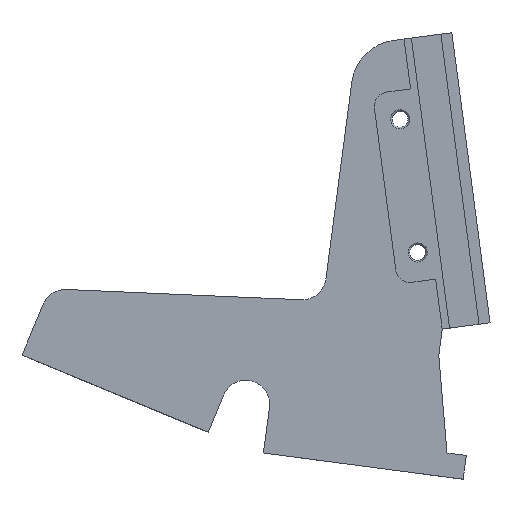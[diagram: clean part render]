
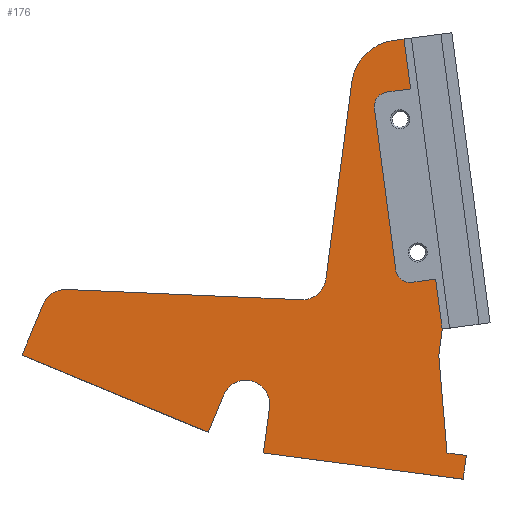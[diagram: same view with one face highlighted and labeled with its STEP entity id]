
A CAD part, left-side view. The second image highlights one B-rep face of the part: STEP entity #176.
In plain terms, the highlighted planar face has unit normal (-1, 0, 0).
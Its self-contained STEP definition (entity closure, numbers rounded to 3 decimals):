
#142=FACE_OUTER_BOUND('',#496,.T.);
#176=ADVANCED_FACE('',(#142),#235,.F.);
#235=PLANE('',#1125);
#264=LINE('',#1542,#349);
#284=LINE('',#1588,#369);
#286=LINE('',#1592,#371);
#287=LINE('',#1596,#372);
#288=LINE('',#1600,#373);
#289=LINE('',#1604,#374);
#290=LINE('',#1605,#375);
#291=LINE('',#1609,#376);
#292=LINE('',#1611,#377);
#293=LINE('',#1613,#378);
#294=LINE('',#1615,#379);
#295=LINE('',#1617,#380);
#296=LINE('',#1619,#381);
#297=LINE('',#1621,#382);
#298=LINE('',#1623,#383);
#299=LINE('',#1627,#384);
#300=LINE('',#1631,#385);
#349=VECTOR('',#1243,1.);
#369=VECTOR('',#1271,1.);
#371=VECTOR('',#1275,1.);
#372=VECTOR('',#1278,1.);
#373=VECTOR('',#1281,1.);
#374=VECTOR('',#1284,1.);
#375=VECTOR('',#1285,1.);
#376=VECTOR('',#1288,1.);
#377=VECTOR('',#1289,1.);
#378=VECTOR('',#1290,1.);
#379=VECTOR('',#1291,1.);
#380=VECTOR('',#1292,1.);
#381=VECTOR('',#1293,1.);
#382=VECTOR('',#1294,1.);
#383=VECTOR('',#1295,1.);
#384=VECTOR('',#1298,1.);
#385=VECTOR('',#1301,1.);
#496=EDGE_LOOP('',(#604,#605,#606,#607,#608,#609,#610,#611,#612,#613,#614,
#615,#616,#617,#618,#619,#620,#621,#622,#623,#624,#625,#626));
#604=ORIENTED_EDGE('',*,*,#950,.F.);
#605=ORIENTED_EDGE('',*,*,#948,.T.);
#606=ORIENTED_EDGE('',*,*,#951,.T.);
#607=ORIENTED_EDGE('',*,*,#952,.T.);
#608=ORIENTED_EDGE('',*,*,#953,.T.);
#609=ORIENTED_EDGE('',*,*,#954,.T.);
#610=ORIENTED_EDGE('',*,*,#955,.T.);
#611=ORIENTED_EDGE('',*,*,#956,.T.);
#612=ORIENTED_EDGE('',*,*,#926,.T.);
#613=ORIENTED_EDGE('',*,*,#957,.T.);
#614=ORIENTED_EDGE('',*,*,#958,.T.);
#615=ORIENTED_EDGE('',*,*,#959,.T.);
#616=ORIENTED_EDGE('',*,*,#960,.T.);
#617=ORIENTED_EDGE('',*,*,#961,.T.);
#618=ORIENTED_EDGE('',*,*,#962,.T.);
#619=ORIENTED_EDGE('',*,*,#963,.T.);
#620=ORIENTED_EDGE('',*,*,#964,.T.);
#621=ORIENTED_EDGE('',*,*,#965,.F.);
#622=ORIENTED_EDGE('',*,*,#966,.F.);
#623=ORIENTED_EDGE('',*,*,#967,.T.);
#624=ORIENTED_EDGE('',*,*,#968,.F.);
#625=ORIENTED_EDGE('',*,*,#969,.T.);
#626=ORIENTED_EDGE('',*,*,#970,.F.);
#830=VERTEX_POINT('',#1541);
#831=VERTEX_POINT('',#1543);
#852=VERTEX_POINT('',#1587);
#853=VERTEX_POINT('',#1589);
#854=VERTEX_POINT('',#1593);
#855=VERTEX_POINT('',#1595);
#856=VERTEX_POINT('',#1597);
#857=VERTEX_POINT('',#1599);
#858=VERTEX_POINT('',#1601);
#859=VERTEX_POINT('',#1603);
#860=VERTEX_POINT('',#1606);
#861=VERTEX_POINT('',#1608);
#862=VERTEX_POINT('',#1610);
#863=VERTEX_POINT('',#1612);
#864=VERTEX_POINT('',#1614);
#865=VERTEX_POINT('',#1616);
#866=VERTEX_POINT('',#1618);
#867=VERTEX_POINT('',#1620);
#868=VERTEX_POINT('',#1622);
#869=VERTEX_POINT('',#1624);
#870=VERTEX_POINT('',#1626);
#871=VERTEX_POINT('',#1628);
#872=VERTEX_POINT('',#1630);
#926=EDGE_CURVE('',#831,#830,#264,.T.);
#948=EDGE_CURVE('',#853,#852,#284,.T.);
#950=EDGE_CURVE('',#853,#854,#286,.T.);
#951=EDGE_CURVE('',#852,#855,#1063,.T.);
#952=EDGE_CURVE('',#855,#856,#287,.T.);
#953=EDGE_CURVE('',#856,#857,#1064,.T.);
#954=EDGE_CURVE('',#857,#858,#288,.T.);
#955=EDGE_CURVE('',#858,#859,#1065,.T.);
#956=EDGE_CURVE('',#859,#831,#289,.T.);
#957=EDGE_CURVE('',#830,#860,#290,.T.);
#958=EDGE_CURVE('',#860,#861,#1066,.T.);
#959=EDGE_CURVE('',#861,#862,#291,.T.);
#960=EDGE_CURVE('',#862,#863,#292,.T.);
#961=EDGE_CURVE('',#863,#864,#293,.T.);
#962=EDGE_CURVE('',#864,#865,#294,.T.);
#963=EDGE_CURVE('',#865,#866,#295,.T.);
#964=EDGE_CURVE('',#866,#867,#296,.T.);
#965=EDGE_CURVE('',#868,#867,#297,.T.);
#966=EDGE_CURVE('',#869,#868,#298,.T.);
#967=EDGE_CURVE('',#869,#870,#1067,.T.);
#968=EDGE_CURVE('',#871,#870,#299,.T.);
#969=EDGE_CURVE('',#871,#872,#1068,.T.);
#970=EDGE_CURVE('',#854,#872,#300,.T.);
#1063=CIRCLE('',#1119,10.);
#1064=CIRCLE('',#1120,5.);
#1065=CIRCLE('',#1121,5.);
#1066=CIRCLE('',#1122,5.);
#1067=CIRCLE('',#1123,3.);
#1068=CIRCLE('',#1124,3.);
#1119=AXIS2_PLACEMENT_3D('',#1594,#1276,#1277);
#1120=AXIS2_PLACEMENT_3D('',#1598,#1279,#1280);
#1121=AXIS2_PLACEMENT_3D('',#1602,#1282,#1283);
#1122=AXIS2_PLACEMENT_3D('',#1607,#1286,#1287);
#1123=AXIS2_PLACEMENT_3D('',#1625,#1296,#1297);
#1124=AXIS2_PLACEMENT_3D('',#1629,#1299,#1300);
#1125=AXIS2_PLACEMENT_3D('',#1632,#1302,#1303);
#1243=DIRECTION('',(0.,-0.924,-0.383));
#1271=DIRECTION('',(0.,0.991,-0.131));
#1275=DIRECTION('',(0.,-0.131,-0.991));
#1276=DIRECTION('',(-1.,0.,0.));
#1277=DIRECTION('',(0.,-0.151,-0.989));
#1278=DIRECTION('',(0.,0.131,-0.991));
#1279=DIRECTION('',(1.,0.,0.));
#1280=DIRECTION('',(0.,-0.151,-0.989));
#1281=DIRECTION('',(0.,0.999,0.044));
#1282=DIRECTION('',(-1.,0.,0.));
#1283=DIRECTION('',(0.,-0.151,-0.989));
#1284=DIRECTION('',(0.,0.383,-0.924));
#1285=DIRECTION('',(0.,-0.383,0.924));
#1286=DIRECTION('',(1.,0.,0.));
#1287=DIRECTION('',(0.,-0.131,0.991));
#1288=DIRECTION('',(0.,0.131,-0.991));
#1289=DIRECTION('',(0.,-0.991,-0.131));
#1290=DIRECTION('',(0.,-0.131,0.991));
#1291=DIRECTION('',(0.,0.991,0.131));
#1292=DIRECTION('',(0.,0.083,0.997));
#1293=DIRECTION('',(0.,-0.131,0.991));
#1294=DIRECTION('',(0.,-0.131,-0.991));
#1295=DIRECTION('',(0.,-0.991,0.131));
#1296=DIRECTION('',(1.,0.,0.));
#1297=DIRECTION('',(0.,-0.151,-0.989));
#1298=DIRECTION('',(0.,-0.131,-0.991));
#1299=DIRECTION('',(1.,0.,0.));
#1300=DIRECTION('',(0.,-0.151,-0.989));
#1301=DIRECTION('',(0.,0.991,-0.131));
#1302=DIRECTION('',(1.,0.,0.));
#1303=DIRECTION('',(0.,-0.151,-0.989));
#1541=CARTESIAN_POINT('',(763.,91.046,-392.71));
#1542=CARTESIAN_POINT('',(763.,129.849,-376.637));
#1543=CARTESIAN_POINT('',(763.,129.849,-376.637));
#1587=CARTESIAN_POINT('',(763.,52.45,-311.005));
#1588=CARTESIAN_POINT('',(763.,40.228,-309.396));
#1589=CARTESIAN_POINT('',(763.,50.193,-310.708));
#1592=CARTESIAN_POINT('',(763.,50.193,-310.708));
#1593=CARTESIAN_POINT('',(763.,48.822,-321.118));
#1594=CARTESIAN_POINT('',(763.,51.144,-320.919));
#1595=CARTESIAN_POINT('',(763.,61.059,-319.614));
#1596=CARTESIAN_POINT('',(763.,60.057,-312.007));
#1597=CARTESIAN_POINT('',(763.,66.472,-360.727));
#1598=CARTESIAN_POINT('',(763.,71.429,-360.074));
#1599=CARTESIAN_POINT('',(763.,71.647,-365.07));
#1600=CARTESIAN_POINT('',(763.,67.07,-365.269));
#1601=CARTESIAN_POINT('',(763.,120.611,-362.932));
#1602=CARTESIAN_POINT('',(763.,120.829,-367.927));
#1603=CARTESIAN_POINT('',(763.,125.449,-366.014));
#1604=CARTESIAN_POINT('',(763.,124.109,-362.779));
#1605=CARTESIAN_POINT('',(763.,91.046,-392.71));
#1606=CARTESIAN_POINT('',(763.,87.825,-384.933));
#1607=CARTESIAN_POINT('',(763.,83.205,-386.846));
#1608=CARTESIAN_POINT('',(763.,78.248,-387.499));
#1609=CARTESIAN_POINT('',(763.,78.248,-387.499));
#1610=CARTESIAN_POINT('',(763.,79.502,-397.02));
#1611=CARTESIAN_POINT('',(763.,79.502,-397.02));
#1612=CARTESIAN_POINT('',(763.,37.861,-402.502));
#1613=CARTESIAN_POINT('',(763.,37.861,-402.502));
#1614=CARTESIAN_POINT('',(763.,37.208,-397.544));
#1615=CARTESIAN_POINT('',(763.,37.208,-397.544));
#1616=CARTESIAN_POINT('',(763.,41.243,-397.013));
#1617=CARTESIAN_POINT('',(763.,42.376,-383.439));
#1618=CARTESIAN_POINT('',(763.,42.946,-376.616));
#1619=CARTESIAN_POINT('',(763.,45.556,-396.445));
#1620=CARTESIAN_POINT('',(763.,42.231,-371.186));
#1621=CARTESIAN_POINT('',(763.,43.601,-360.776));
#1622=CARTESIAN_POINT('',(763.,43.601,-360.776));
#1623=CARTESIAN_POINT('',(763.,51.533,-361.82));
#1624=CARTESIAN_POINT('',(763.,48.559,-361.428));
#1625=CARTESIAN_POINT('',(763.,48.95,-358.454));
#1626=CARTESIAN_POINT('',(763.,51.924,-358.846));
#1627=CARTESIAN_POINT('',(763.,56.754,-322.162));
#1628=CARTESIAN_POINT('',(763.,56.362,-325.137));
#1629=CARTESIAN_POINT('',(763.,53.388,-324.745));
#1630=CARTESIAN_POINT('',(763.,53.78,-321.771));
#1631=CARTESIAN_POINT('',(763.,48.822,-321.118));
#1632=CARTESIAN_POINT('',(763.,83.205,-386.846));
